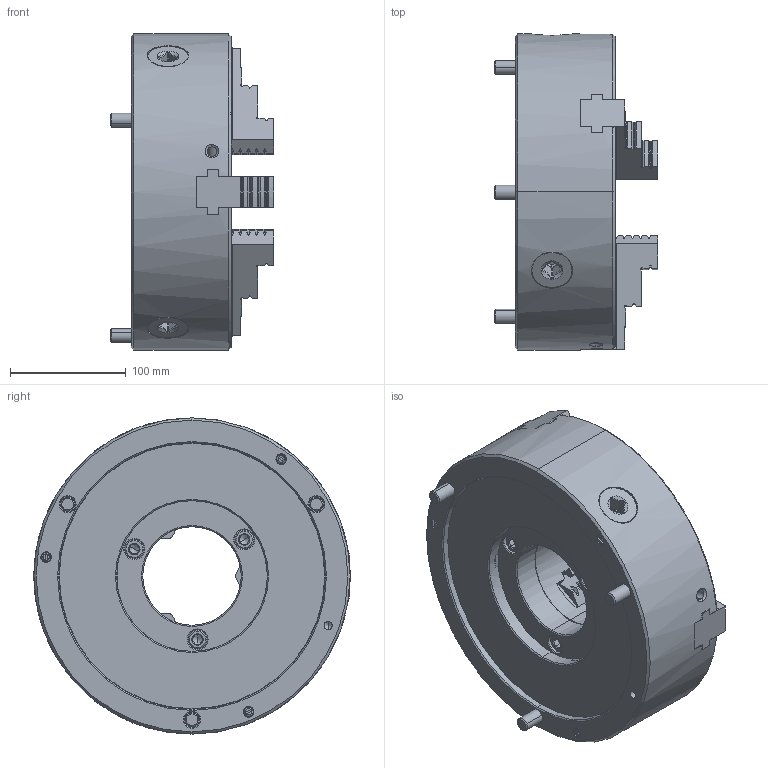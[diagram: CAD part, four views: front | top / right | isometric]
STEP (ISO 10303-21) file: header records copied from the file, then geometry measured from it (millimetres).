
FILE_DESCRIPTION (( 'STEP AP214' ), '1' );
FILE_NAME ('JN10-101_ジョー可動.STEP', '2026-03-11T04:27:48', ( '' ), ( '' ), 'SwSTEP 2.0', 'SolidWorks 2022', '' );
FILE_SCHEMA (( 'AUTOMOTIVE_DESIGN' ));
Length unit declared in the file: millimetre
Products named in the file (3): Part7^JN10-101 61S2120597 ASSY; INTERNAL JAW^JN10-101 61S2120597 ASSY; JN10-101_ジョー可動
Assembly tree (4 placements, depth 2):
  JN10-101_ジョー可動
    INTERNAL JAW^JN10-101 61S2120597 ASSY  x3
    Part7^JN10-101 61S2120597 ASSY
Bounding box: 141.5 x 273 x 273 mm (x, y, z)
Volume: 4359236.5 mm3; surface area: 322132.5 mm2
Topology: 4 solids, 13 shells, 1296 faces, 3488 edges, 2278 vertices
Faces by surface type: plane 585, cone 224, cylinder 208, bspline 208, torus 67, sphere 4
Entity records: 51152 total; most frequent: CARTESIAN_POINT 24950, ORIENTED_EDGE 5838, DIRECTION 4600, EDGE_CURVE 2919, VERTEX_POINT 1919, VECTOR 1650, LINE 1650, AXIS2_PLACEMENT_3D 1475
